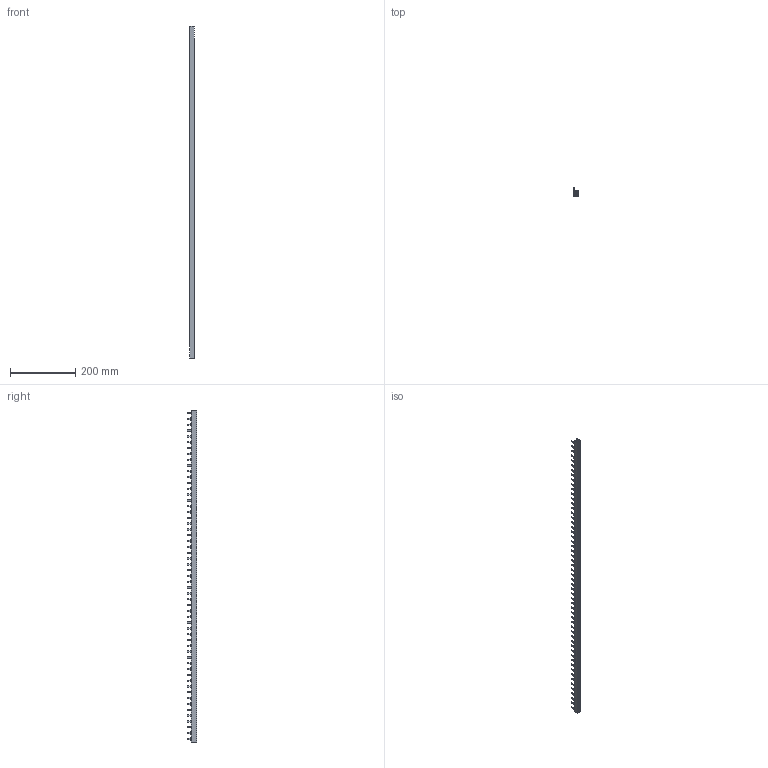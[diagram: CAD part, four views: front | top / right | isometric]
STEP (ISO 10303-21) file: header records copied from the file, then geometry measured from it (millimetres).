
FILE_DESCRIPTION (( 'STEP AP214' ), '1' );
FILE_NAME ('S3L-1000-16.step', '2011-08-12T10:32:21', ( 'Radek Veselý' ), ( 'Siemens and Partners' ), 'SwSTEP 2.0', 'SolidWorks 2006303', '' );
FILE_SCHEMA (( 'AUTOMOTIVE_DESIGN' ));
Length unit declared in the file: millimetre
Products named in the file (1): S3L-1000-16
Bounding box: 14.9 x 28.5 x 1016 mm (x, y, z)
Volume: 150547.5 mm3; surface area: 276235.7 mm2
Topology: 4 solids, 4 shells, 1199 faces, 3345 edges, 2154 vertices
Faces by surface type: plane 702, cylinder 497
Entity records: 51348 total; most frequent: CARTESIAN_POINT 7383, ORIENTED_EDGE 6690, DIRECTION 6283, EDGE_CURVE 3345, VECTOR 2351, LINE 2351, VERTEX_POINT 2154, AXIS2_PLACEMENT_3D 1966
